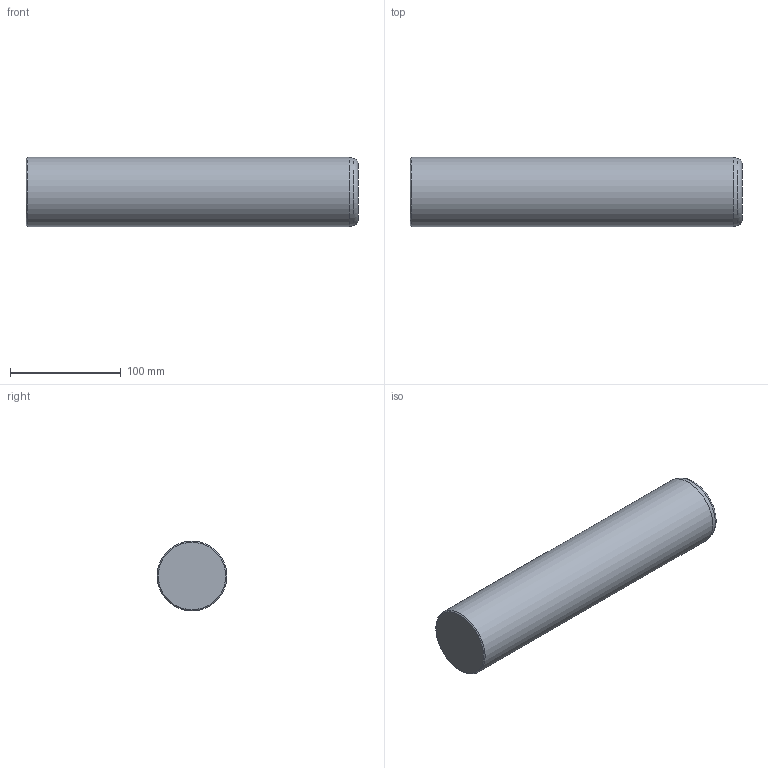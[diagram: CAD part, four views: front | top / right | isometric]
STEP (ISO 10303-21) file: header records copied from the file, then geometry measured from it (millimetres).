
FILE_DESCRIPTION(/* description */ ('Impex Ready, www.impex-ready.pl'),/* implementation_level */ '2;1');
FILE_NAME(/* name */ 'C:\Users\VIKKY\Nextcloud\SM\projekt 10 - części na stronę internetową\Pliki_3D_new\256 CIS Słup\256 CIS_STEP\CIS63300.ipt.step',/* time_stamp */ '2021-12-20T12:49:11+01:00',/* author */ ('SM'),/* organization */ (''),/* preprocessor_version */ 'ST-DEVELOPER v18.1',/* originating_system */ 'Autodesk Inventor 2021',/* authorisation */ '');
FILE_SCHEMA (('AUTOMOTIVE_DESIGN { 1 0 10303 214 3 1 1 }'));
Length unit declared in the file: millimetre
Products named in the file (1): CIS63300
Bounding box: 300 x 63 x 63 mm (x, y, z)
Volume: 932991.5 mm3; surface area: 64881.2 mm2
Topology: 1 solids, 1 shells, 6 faces, 12 edges, 8 vertices
Faces by surface type: cone 2, plane 2, torus 1, cylinder 1
Full cylindrical faces by diameter (mm): 63 x1
Entity records: 239 total; most frequent: DIRECTION 35, CARTESIAN_POINT 27, ORIENTED_EDGE 24, AXIS2_PLACEMENT_3D 16, EDGE_CURVE 12, CIRCLE 9, VERTEX_POINT 8, STYLED_ITEM 7
